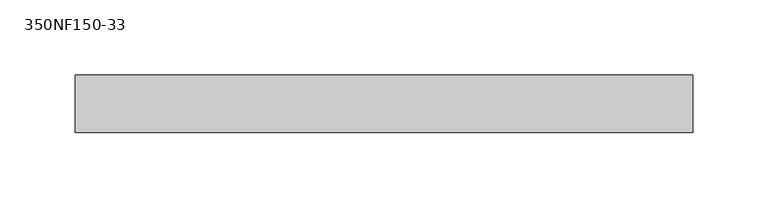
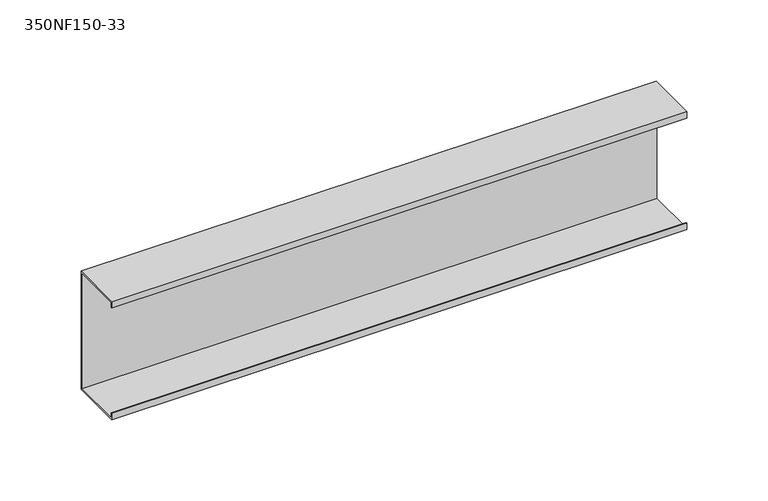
"""IFC4 building model written with IfcOpenShell, lengths in millimetres: beam geometry, BIMSF-SSMA-S : 350NF150-33."""

from ifc_helpers import new_model, si_unit, frame, origin, place, context, project, spatial, polyline, outline, extrude, source, transform, mapped, element, save


def beam_350nf150_33_06793d65(model_context):
    return source(origin(), model_context, "Body", "SweptSolid", [
        extrude(outline(polyline([(19.05, 44.45), (19.05, -44.45), (-19.05, -44.45), (-19.05, -39.6748), (-18.1676842, -39.6748), (-18.1676842, -43.5676842), (18.1676842, -43.5676842), (18.1676842, 43.5676842), (-18.1676842, 43.5676842), (-18.1676842, 39.6748), (-19.05, 39.6748), (-19.05, 44.45), (19.05, 44.45)])), frame((-204.7875, 0.0, 0.0), z_axis=(1.0, 0.0, 0.0), x_axis=(0.0, 1.0, 0.0)), (0.0, 0.0, 1.0), 409.575),
    ])


if __name__ == "__main__":
    model = new_model("IFC4")
    model_context = context("Model", 3, world=origin())
    ifc_project = project(units=[si_unit("LENGTHUNIT", "METRE", prefix="MILLI")], contexts=[model_context])
    site = spatial("IfcSite", under=ifc_project)
    building = spatial("IfcBuilding", under=site)
    placement = place(None, origin())
    beam_350nf150_33_shape = beam_350nf150_33_06793d65(model_context)
    element("IfcBeam", 1, ObjectType="BIMSF-SSMA-S : 350NF150-33", at=placement, inside=building, context=model_context, shape_type="MappedRepresentation", body=[
        mapped(beam_350nf150_33_shape, transform((0.0, 0.0, 0.0), x_axis=(1.0, 0.0, 0.0), y_axis=(0.0, 1.0, 0.0), z_axis=(0.0, 0.0, 1.0))),
    ])
    save(model, "model.ifc")
